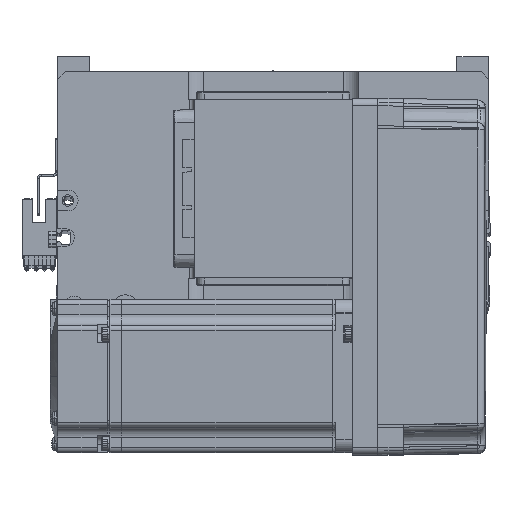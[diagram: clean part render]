
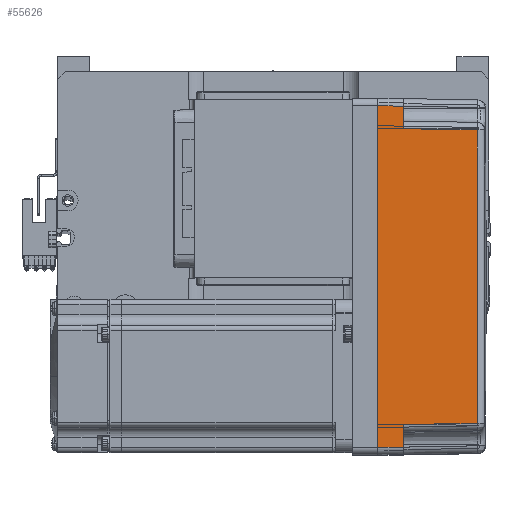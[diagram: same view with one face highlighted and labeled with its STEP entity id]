
A CAD part, top view. The second image highlights one B-rep face of the part: STEP entity #55626.
In plain terms, the highlighted planar face has unit normal (0.018, 0, 1) as drawn and (0, 1, 0.017) by its records, which use the part's own axes.
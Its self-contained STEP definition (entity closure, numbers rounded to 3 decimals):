
#1071 = CARTESIAN_POINT ( 'NONE',  ( 67.001, 36.001, -0.052 ) ) ;
#1535 = VERTEX_POINT ( 'NONE', #37330 ) ;
#2945 = EDGE_CURVE ( 'NONE', #29062, #27401, #54356, .T. ) ;
#4032 = EDGE_LOOP ( 'NONE', ( #41309, #28966, #23341, #7327, #62150, #16778, #42593, #38625 ) ) ;
#4152 = PLANE ( 'NONE',  #6467 ) ;
#5665 = VERTEX_POINT ( 'NONE', #57053 ) ;
#5767 = CARTESIAN_POINT ( 'NONE',  ( -66.826, 35.825, 10. ) ) ;
#6467 = AXIS2_PLACEMENT_3D ( 'NONE', #23510, #28168, #23724 ) ;
#7080 = LINE ( 'NONE', #23232, #59669 ) ;
#7327 = ORIENTED_EDGE ( 'NONE', *, *, #27785, .T. ) ;
#8644 = CARTESIAN_POINT ( 'NONE',  ( -57.495, 35.32, 38.985 ) ) ;
#8685 = EDGE_CURVE ( 'NONE', #18496, #30540, #7080, .T. ) ;
#8939 = VERTEX_POINT ( 'NONE', #22547 ) ;
#9479 = CARTESIAN_POINT ( 'NONE',  ( 19.165, 35.316, 39.181 ) ) ;
#10380 = CARTESIAN_POINT ( 'NONE',  ( 70., 35.825, 10. ) ) ;
#12328 = CARTESIAN_POINT ( 'NONE',  ( 0., 36., 0. ) ) ;
#13456 = LINE ( 'NONE', #10380, #39839 ) ;
#15039 = CARTESIAN_POINT ( 'NONE',  ( -67., 36., 0. ) ) ;
#16778 = ORIENTED_EDGE ( 'NONE', *, *, #56772, .T. ) ;
#18496 = VERTEX_POINT ( 'NONE', #57132 ) ;
#18691 = LINE ( 'NONE', #1071, #29986 ) ;
#19482 = DIRECTION ( 'NONE',  ( 0.017, -0.017, 1. ) ) ;
#19782 = CARTESIAN_POINT ( 'NONE',  ( 57.495, 35.32, 38.985 ) ) ;
#20070 = DIRECTION ( 'NONE',  ( -0.017, -0.017, 1. ) ) ;
#21059 = EDGE_CURVE ( 'NONE', #8939, #5665, #23594, .T. ) ;
#21217 = VERTEX_POINT ( 'NONE', #28536 ) ;
#21774 = VECTOR ( 'NONE', #21791, 1000. ) ;
#21791 = DIRECTION ( 'NONE',  ( 1., 0., 0. ) ) ;
#22547 = CARTESIAN_POINT ( 'NONE',  ( 57.495, 35.32, 38.985 ) ) ;
#22961 = EDGE_CURVE ( 'NONE', #27401, #18496, #13456, .T. ) ;
#23232 = CARTESIAN_POINT ( 'NONE',  ( -58., 35.825, 10. ) ) ;
#23341 = ORIENTED_EDGE ( 'NONE', *, *, #8685, .T. ) ;
#23342 = CARTESIAN_POINT ( 'NONE',  ( -67., 36., 0. ) ) ;
#23510 = CARTESIAN_POINT ( 'NONE',  ( 70., 36., 0. ) ) ;
#23512 = EDGE_CURVE ( 'NONE', #1535, #21217, #18691, .T. ) ;
#23594 = LINE ( 'NONE', #46566, #40134 ) ;
#23724 = DIRECTION ( 'NONE',  ( 0., -0.017, 1. ) ) ;
#25773 = VECTOR ( 'NONE', #19482, 1000. ) ;
#27401 = VERTEX_POINT ( 'NONE', #5767 ) ;
#27785 = EDGE_CURVE ( 'NONE', #30540, #8939, #58097, .T. ) ;
#28168 = DIRECTION ( 'NONE',  ( 0., 1., 0.017 ) ) ;
#28536 = CARTESIAN_POINT ( 'NONE',  ( 66.826, 35.825, 10. ) ) ;
#28966 = ORIENTED_EDGE ( 'NONE', *, *, #22961, .T. ) ;
#29062 = VERTEX_POINT ( 'NONE', #23342 ) ;
#29558 = DIRECTION ( 'NONE',  ( 1., 0., 0. ) ) ;
#29986 = VECTOR ( 'NONE', #20070, 1000. ) ;
#30540 = VERTEX_POINT ( 'NONE', #42479 ) ;
#33249 = CARTESIAN_POINT ( 'NONE',  ( -19.165, 35.316, 39.181 ) ) ;
#34201 = FACE_OUTER_BOUND ( 'NONE', #4032, .T. ) ;
#34826 = VECTOR ( 'NONE', #53359, 1000. ) ;
#37330 = CARTESIAN_POINT ( 'NONE',  ( 67., 36., 0. ) ) ;
#38625 = ORIENTED_EDGE ( 'NONE', *, *, #52603, .F. ) ;
#38928 = CARTESIAN_POINT ( 'NONE',  ( 70., 35.825, 10. ) ) ;
#39839 = VECTOR ( 'NONE', #29558, 1000. ) ;
#40134 = VECTOR ( 'NONE', #61052, 1000. ) ;
#41309 = ORIENTED_EDGE ( 'NONE', *, *, #2945, .T. ) ;
#42479 = CARTESIAN_POINT ( 'NONE',  ( -57.495, 35.32, 38.985 ) ) ;
#42593 = ORIENTED_EDGE ( 'NONE', *, *, #23512, .F. ) ;
#46566 = CARTESIAN_POINT ( 'NONE',  ( 57.495, 35.32, 38.985 ) ) ;
#52603 = EDGE_CURVE ( 'NONE', #29062, #1535, #61601, .T. ) ;
#53359 = DIRECTION ( 'NONE',  ( 1., 0., 0. ) ) ;
#54356 = LINE ( 'NONE', #15039, #25773 ) ;
#55626 = ADVANCED_FACE ( 'NONE', ( #34201 ), #4152, .T. ) ;
#56549 = LINE ( 'NONE', #38928, #34826 ) ;
#56772 = EDGE_CURVE ( 'NONE', #5665, #21217, #56549, .T. ) ;
#57053 = CARTESIAN_POINT ( 'NONE',  ( 58., 35.825, 10. ) ) ;
#57132 = CARTESIAN_POINT ( 'NONE',  ( -58., 35.825, 10. ) ) ;
#57480 = DIRECTION ( 'NONE',  ( 0.017, -0.017, 1. ) ) ;
#58097 = B_SPLINE_CURVE_WITH_KNOTS ( 'NONE', 3,
 ( #8644, #33249, #9479, #19782 ),
 .UNSPECIFIED., .F., .F.,
 ( 4, 4 ),
 ( 0., 1. ),
 .UNSPECIFIED. ) ;
#59669 = VECTOR ( 'NONE', #57480, 1000. ) ;
#61052 = DIRECTION ( 'NONE',  ( 0.017, 0.017, -1. ) ) ;
#61601 = LINE ( 'NONE', #12328, #21774 ) ;
#62150 = ORIENTED_EDGE ( 'NONE', *, *, #21059, .T. ) ;
